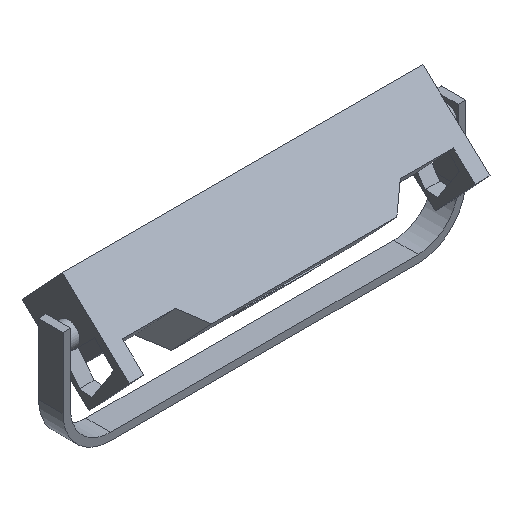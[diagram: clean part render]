
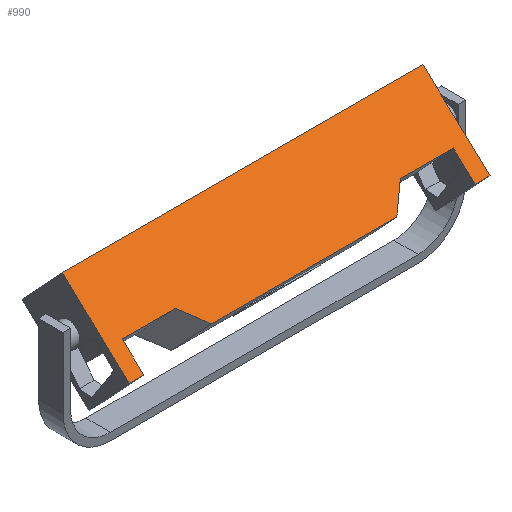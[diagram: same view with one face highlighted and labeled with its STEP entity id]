
A CAD part, isometric view. The second image highlights one B-rep face of the part: STEP entity #990.
In plain terms, the highlighted planar face has unit normal (0.001, -0.682, 0.731) as drawn and (0, 0.035, 0.999) by its records, which use the part's own axes.
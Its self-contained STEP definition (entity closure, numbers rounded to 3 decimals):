
#70=PLANE('',#1126);
#121=FACE_OUTER_BOUND('',#176,.T.);
#176=EDGE_LOOP('',(#793,#794,#795,#796,#797,#798,#799,#800,#801,#802,#803,
#804));
#252=LINE('',#3302,#374);
#253=LINE('',#3304,#375);
#254=LINE('',#3306,#376);
#255=LINE('',#3308,#377);
#256=LINE('',#3310,#378);
#257=LINE('',#3312,#379);
#258=LINE('',#3314,#380);
#259=LINE('',#3316,#381);
#260=LINE('',#3318,#382);
#261=LINE('',#3320,#383);
#262=LINE('',#3322,#384);
#263=LINE('',#3323,#385);
#374=VECTOR('',#1272,10.);
#375=VECTOR('',#1273,10.);
#376=VECTOR('',#1274,10.);
#377=VECTOR('',#1275,10.);
#378=VECTOR('',#1276,10.);
#379=VECTOR('',#1277,10.);
#380=VECTOR('',#1278,10.);
#381=VECTOR('',#1279,10.);
#382=VECTOR('',#1280,10.);
#383=VECTOR('',#1281,10.);
#384=VECTOR('',#1282,10.);
#385=VECTOR('',#1283,10.);
#495=VERTEX_POINT('',#3300);
#496=VERTEX_POINT('',#3301);
#497=VERTEX_POINT('',#3303);
#498=VERTEX_POINT('',#3305);
#499=VERTEX_POINT('',#3307);
#500=VERTEX_POINT('',#3309);
#501=VERTEX_POINT('',#3311);
#502=VERTEX_POINT('',#3313);
#503=VERTEX_POINT('',#3315);
#504=VERTEX_POINT('',#3317);
#505=VERTEX_POINT('',#3319);
#506=VERTEX_POINT('',#3321);
#605=EDGE_CURVE('',#495,#496,#252,.T.);
#606=EDGE_CURVE('',#496,#497,#253,.T.);
#607=EDGE_CURVE('',#497,#498,#254,.T.);
#608=EDGE_CURVE('',#498,#499,#255,.T.);
#609=EDGE_CURVE('',#499,#500,#256,.T.);
#610=EDGE_CURVE('',#500,#501,#257,.T.);
#611=EDGE_CURVE('',#501,#502,#258,.T.);
#612=EDGE_CURVE('',#503,#502,#259,.T.);
#613=EDGE_CURVE('',#504,#503,#260,.T.);
#614=EDGE_CURVE('',#505,#504,#261,.T.);
#615=EDGE_CURVE('',#506,#505,#262,.T.);
#616=EDGE_CURVE('',#495,#506,#263,.T.);
#793=ORIENTED_EDGE('',*,*,#605,.T.);
#794=ORIENTED_EDGE('',*,*,#606,.T.);
#795=ORIENTED_EDGE('',*,*,#607,.T.);
#796=ORIENTED_EDGE('',*,*,#608,.T.);
#797=ORIENTED_EDGE('',*,*,#609,.T.);
#798=ORIENTED_EDGE('',*,*,#610,.T.);
#799=ORIENTED_EDGE('',*,*,#611,.T.);
#800=ORIENTED_EDGE('',*,*,#612,.F.);
#801=ORIENTED_EDGE('',*,*,#613,.F.);
#802=ORIENTED_EDGE('',*,*,#614,.F.);
#803=ORIENTED_EDGE('',*,*,#615,.F.);
#804=ORIENTED_EDGE('',*,*,#616,.F.);
#990=ADVANCED_FACE('',(#121),#70,.T.);
#1126=AXIS2_PLACEMENT_3D('',#3299,#1270,#1271);
#1270=DIRECTION('center_axis',(0.,0.035,0.999));
#1271=DIRECTION('ref_axis',(1.,0.,0.));
#1272=DIRECTION('',(1.,0.,0.));
#1273=DIRECTION('',(0.665,0.747,-0.026));
#1274=DIRECTION('',(1.,0.,0.));
#1275=DIRECTION('',(0.002,-0.999,0.035));
#1276=DIRECTION('',(1.,0.002,0.));
#1277=DIRECTION('',(0.,0.999,-0.035));
#1278=DIRECTION('',(-1.,0.,0.));
#1279=DIRECTION('',(0.,0.999,-0.035));
#1280=DIRECTION('',(-1.,0.002,0.));
#1281=DIRECTION('',(-0.002,-0.999,0.035));
#1282=DIRECTION('',(-1.,0.,0.));
#1283=DIRECTION('',(-0.664,0.747,-0.026));
#3299=CARTESIAN_POINT('Origin',(180.563,-13.145,64.7));
#3300=CARTESIAN_POINT('',(-187.288,-89.903,67.38));
#3301=CARTESIAN_POINT('',(185.001,-89.903,67.38));
#3302=CARTESIAN_POINT('',(-5.292,-89.903,67.38));
#3303=CARTESIAN_POINT('',(224.948,-45.046,65.814));
#3304=CARTESIAN_POINT('',(185.001,-89.903,67.38));
#3305=CARTESIAN_POINT('',(331.392,-45.046,65.814));
#3306=CARTESIAN_POINT('',(224.948,-45.046,65.814));
#3307=CARTESIAN_POINT('',(331.502,-105.27,67.917));
#3308=CARTESIAN_POINT('',(331.502,-105.27,67.917));
#3309=CARTESIAN_POINT('',(361.,-105.216,67.915));
#3310=CARTESIAN_POINT('',(361.148,-105.215,67.915));
#3311=CARTESIAN_POINT('',(361.,78.896,61.485));
#3312=CARTESIAN_POINT('',(361.,-34.419,65.442));
#3313=CARTESIAN_POINT('',(-363.286,79.063,61.48));
#3314=CARTESIAN_POINT('',(0.018,78.979,61.482));
#3315=CARTESIAN_POINT('',(-363.371,-105.049,67.909));
#3316=CARTESIAN_POINT('',(-363.338,-34.252,65.437));
#3317=CARTESIAN_POINT('',(-333.873,-105.116,67.911));
#3318=CARTESIAN_POINT('',(-363.519,-105.048,67.909));
#3319=CARTESIAN_POINT('',(-333.735,-44.893,65.808));
#3320=CARTESIAN_POINT('',(-333.873,-105.116,67.911));
#3321=CARTESIAN_POINT('',(-227.291,-44.942,65.81));
#3322=CARTESIAN_POINT('',(-227.291,-44.942,65.81));
#3323=CARTESIAN_POINT('',(-187.365,-89.817,67.377));
